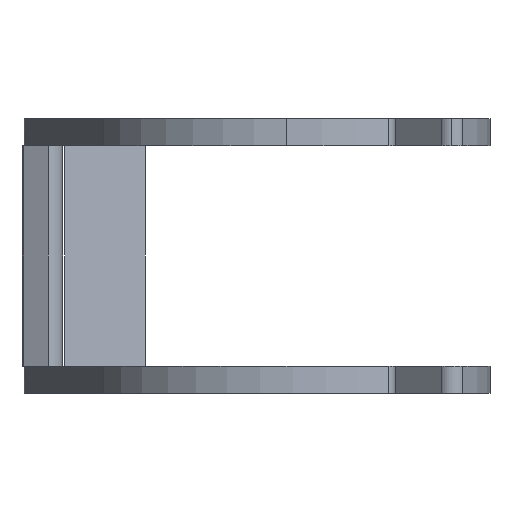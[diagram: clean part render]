
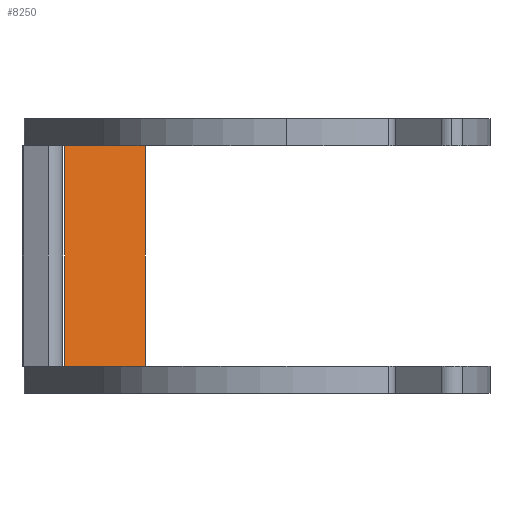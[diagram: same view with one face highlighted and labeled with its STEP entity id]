
A CAD part, left-side view. The second image highlights one B-rep face of the part: STEP entity #8250.
In plain terms, the highlighted planar face has unit normal (-0.956, -0.292, 0).
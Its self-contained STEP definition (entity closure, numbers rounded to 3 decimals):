
#311 = EDGE_CURVE ( 'NONE', #6343, #1750, #2406, .T. ) ;
#502 = CARTESIAN_POINT ( 'NONE',  ( 61.2, 65.5, -65. ) ) ;
#561 = CARTESIAN_POINT ( 'NONE',  ( 68.471, 41.718, -65. ) ) ;
#901 = CARTESIAN_POINT ( 'NONE',  ( 68.471, 41.718, 0. ) ) ;
#946 = LINE ( 'NONE', #8190, #4344 ) ;
#998 = CARTESIAN_POINT ( 'NONE',  ( 61.2, 65.5, 0. ) ) ;
#1051 = ORIENTED_EDGE ( 'NONE', *, *, #5029, .T. ) ;
#1069 = VECTOR ( 'NONE', #8555, 1000. ) ;
#1078 = EDGE_CURVE ( 'NONE', #6343, #1901, #5861, .T. ) ;
#1242 = DIRECTION ( 'NONE',  ( -0.292, 0.956, 0. ) ) ;
#1334 = CARTESIAN_POINT ( 'NONE',  ( 61.2, 65.5, 0. ) ) ;
#1458 = AXIS2_PLACEMENT_3D ( 'NONE', #7277, #3478, #2828 ) ;
#1750 = VERTEX_POINT ( 'NONE', #901 ) ;
#1901 = VERTEX_POINT ( 'NONE', #502 ) ;
#2406 = LINE ( 'NONE', #561, #1069 ) ;
#2485 = FACE_OUTER_BOUND ( 'NONE', #2634, .T. ) ;
#2634 = EDGE_LOOP ( 'NONE', ( #1051, #7304, #3643, #6379 ) ) ;
#2828 = DIRECTION ( 'NONE',  ( -0.292, 0.956, 0. ) ) ;
#3478 = DIRECTION ( 'NONE',  ( 0.956, 0.292, 0. ) ) ;
#3643 = ORIENTED_EDGE ( 'NONE', *, *, #1078, .F. ) ;
#4275 = CARTESIAN_POINT ( 'NONE',  ( 68.471, 41.718, -65. ) ) ;
#4312 = DIRECTION ( 'NONE',  ( 0., 0., 1. ) ) ;
#4344 = VECTOR ( 'NONE', #4312, 1000. ) ;
#4964 = VECTOR ( 'NONE', #7385, 1000. ) ;
#5029 = EDGE_CURVE ( 'NONE', #1750, #7001, #8179, .T. ) ;
#5861 = LINE ( 'NONE', #7880, #8102 ) ;
#6308 = EDGE_CURVE ( 'NONE', #1901, #7001, #946, .T. ) ;
#6343 = VERTEX_POINT ( 'NONE', #4275 ) ;
#6379 = ORIENTED_EDGE ( 'NONE', *, *, #311, .T. ) ;
#7001 = VERTEX_POINT ( 'NONE', #998 ) ;
#7070 = PLANE ( 'NONE',  #1458 ) ;
#7277 = CARTESIAN_POINT ( 'NONE',  ( 61.2, 65.5, -65. ) ) ;
#7304 = ORIENTED_EDGE ( 'NONE', *, *, #6308, .F. ) ;
#7385 = DIRECTION ( 'NONE',  ( -0.292, 0.956, 0. ) ) ;
#7880 = CARTESIAN_POINT ( 'NONE',  ( 61.2, 65.5, -65. ) ) ;
#8102 = VECTOR ( 'NONE', #1242, 1000. ) ;
#8179 = LINE ( 'NONE', #1334, #4964 ) ;
#8190 = CARTESIAN_POINT ( 'NONE',  ( 61.2, 65.5, -65. ) ) ;
#8250 = ADVANCED_FACE ( 'NONE', ( #2485 ), #7070, .F. ) ;
#8555 = DIRECTION ( 'NONE',  ( 0., 0., 1. ) ) ;
